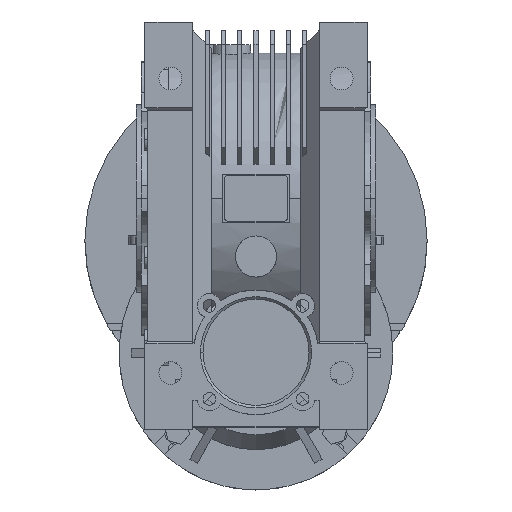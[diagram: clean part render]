
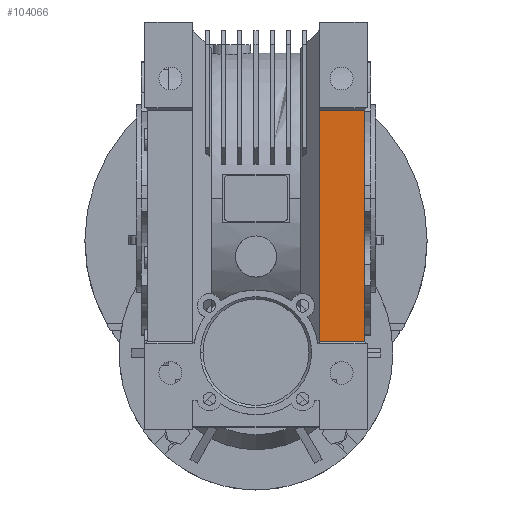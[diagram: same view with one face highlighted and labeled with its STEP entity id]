
A CAD part, top view. The second image highlights one B-rep face of the part: STEP entity #104066.
In plain terms, the highlighted planar face has unit normal (0, 0, 1) as drawn and (-1, 0, 0) by its records, which use the part's own axes.
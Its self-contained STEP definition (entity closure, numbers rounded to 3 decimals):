
#4248 = VERTEX_POINT ( 'NONE', #75213 ) ;
#4616 = VERTEX_POINT ( 'NONE', #75344 ) ;
#4633 = VERTEX_POINT ( 'NONE', #75349 ) ;
#4635 = VERTEX_POINT ( 'NONE', #75358 ) ;
#27884 = AXIS2_PLACEMENT_3D ( 'NONE', #42267, #42268, #42270 ) ;
#42228 = PLANE ( 'NONE',  #27884 ) ;
#42267 = CARTESIAN_POINT ( 'NONE',  ( -101.5, -51.5, -65. ) ) ;
#42268 = DIRECTION ( 'NONE',  ( -1., 0., 0. ) ) ;
#42270 = DIRECTION ( 'NONE',  ( 0., 0., 1. ) ) ;
#44321 = FACE_OUTER_BOUND ( 'NONE', #48335, .T. ) ;
#48335 = EDGE_LOOP ( 'NONE', ( #120325, #120327, #120329, #120331 ) ) ;
#75213 = CARTESIAN_POINT ( 'NONE',  ( -101.5, 83.5, -37. ) ) ;
#75344 = CARTESIAN_POINT ( 'NONE',  ( -101.5, -51.5, -37. ) ) ;
#75349 = CARTESIAN_POINT ( 'NONE',  ( -101.5, 83.5, -63.5 ) ) ;
#75358 = CARTESIAN_POINT ( 'NONE',  ( -101.5, -51.5, -63.5 ) ) ;
#104066 = ADVANCED_FACE ( 'NONE', ( #44321 ), #42228, .T. ) ;
#108436 = EDGE_CURVE ( 'NONE', #4633, #4248, #136032, .T. ) ;
#108438 = EDGE_CURVE ( 'NONE', #4616, #4248, #136036, .T. ) ;
#108440 = EDGE_CURVE ( 'NONE', #4633, #4635, #136021, .T. ) ;
#108443 = EDGE_CURVE ( 'NONE', #4635, #4616, #136044, .T. ) ;
#120325 = ORIENTED_EDGE ( 'NONE', *, *, #108438, .T. ) ;
#120327 = ORIENTED_EDGE ( 'NONE', *, *, #108436, .F. ) ;
#120329 = ORIENTED_EDGE ( 'NONE', *, *, #108440, .T. ) ;
#120331 = ORIENTED_EDGE ( 'NONE', *, *, #108443, .T. ) ;
#136021 = LINE ( 'NONE', #138094, #136045 ) ;
#136032 = LINE ( 'NONE', #138103, #136038 ) ;
#136036 = LINE ( 'NONE', #138105, #136042 ) ;
#136038 = VECTOR ( 'NONE', #138104, 1000. ) ;
#136042 = VECTOR ( 'NONE', #138107, 1000. ) ;
#136044 = LINE ( 'NONE', #138109, #136049 ) ;
#136045 = VECTOR ( 'NONE', #138108, 1000. ) ;
#136049 = VECTOR ( 'NONE', #138110, 1000. ) ;
#138094 = CARTESIAN_POINT ( 'NONE',  ( -101.5, -51.5, -63.5 ) ) ;
#138103 = CARTESIAN_POINT ( 'NONE',  ( -101.5, 83.5, -65. ) ) ;
#138104 = DIRECTION ( 'NONE',  ( 0., 0., 1. ) ) ;
#138105 = CARTESIAN_POINT ( 'NONE',  ( -101.5, -51.5, -37. ) ) ;
#138107 = DIRECTION ( 'NONE',  ( 0., 1., 0. ) ) ;
#138108 = DIRECTION ( 'NONE',  ( 0., -1., 0. ) ) ;
#138109 = CARTESIAN_POINT ( 'NONE',  ( -101.5, -51.5, -65. ) ) ;
#138110 = DIRECTION ( 'NONE',  ( 0., 0., 1. ) ) ;
